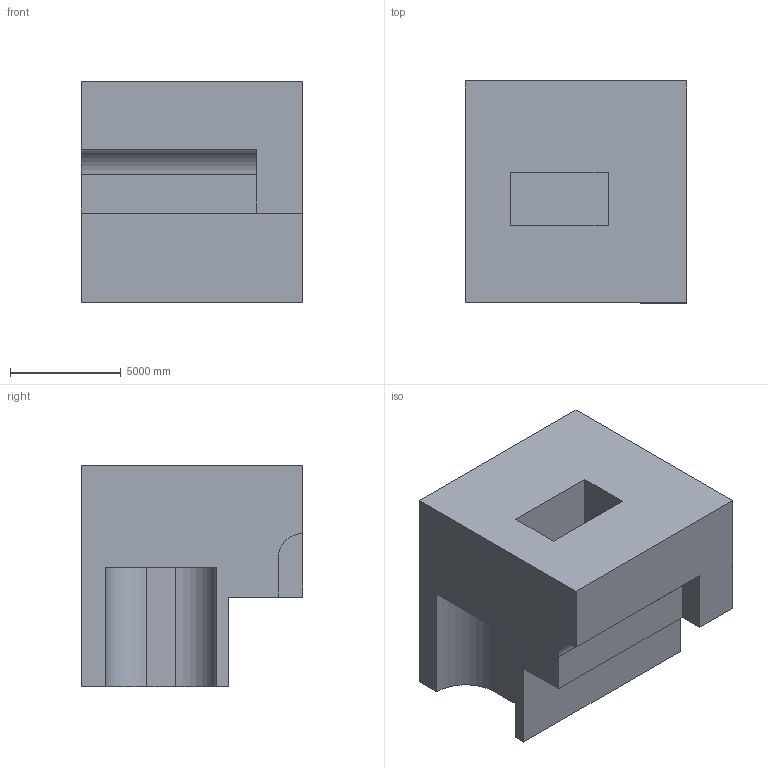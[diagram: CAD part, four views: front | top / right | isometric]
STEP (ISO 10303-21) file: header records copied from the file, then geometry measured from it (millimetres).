
FILE_DESCRIPTION (( 'STEP AP203' ), '1' );
FILE_NAME ('269.STEP', '2022-09-07T12:32:13', ( 'user' ), ( '' ), 'SwSTEP 2.0', 'SolidWorks 2021', '' );
FILE_SCHEMA (( 'CONFIG_CONTROL_DESIGN' ));
Length unit declared in the file: centimetre
Products named in the file (1): 269
Bounding box: 10000 x 10000 x 10000 mm (x, y, z)
Volume: 706165109190 mm3; surface area: 700451753.9 mm2
Topology: 1 solids, 1 shells, 20 faces, 51 edges, 34 vertices
Faces by surface type: plane 17, cylinder 3
Entity records: 678 total; most frequent: CARTESIAN_POINT 106, ORIENTED_EDGE 102, DIRECTION 99, EDGE_CURVE 51, LINE 45, VECTOR 45, VERTEX_POINT 34, AXIS2_PLACEMENT_3D 27
